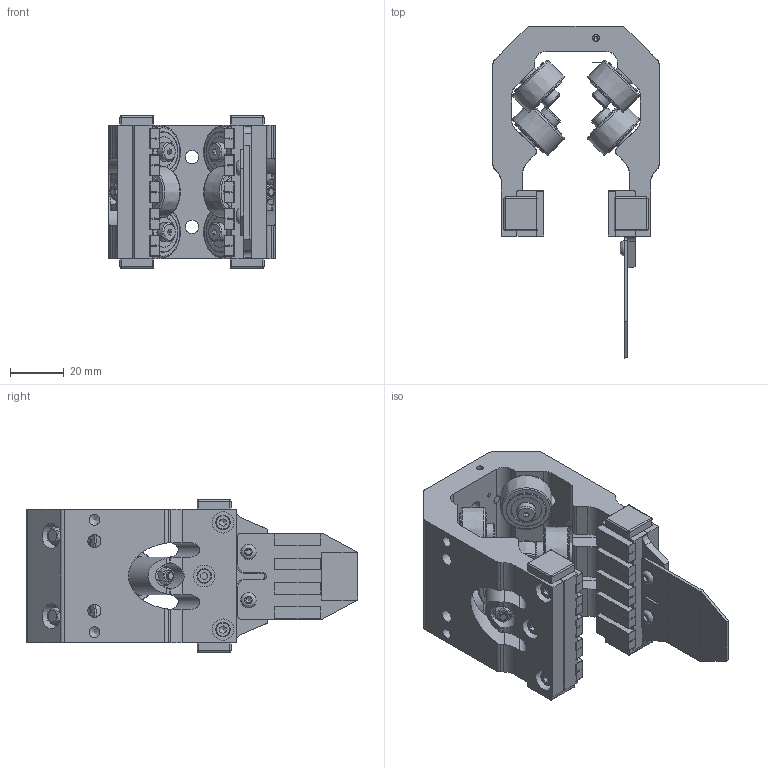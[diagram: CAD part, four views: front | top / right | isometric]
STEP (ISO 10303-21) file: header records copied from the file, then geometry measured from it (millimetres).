
FILE_DESCRIPTION(/* description */ (''),/* implementation_level */ '2;1');
FILE_NAME(/* name */ 'C:\_Vault-Workspace\CAD-Daten\XTS\CAD Daten Homepage\187679 AT9011-0050-1550.stp',/* time_stamp */ '2019-02-06T15:56:59+01:00',/* author */ ('UweB'),/* organization */ (''),/* preprocessor_version */ 'ST-DEVELOPER v17.2',/* originating_system */ 'Autodesk Inventor 2019',/* authorisation */ '');
FILE_SCHEMA (('AUTOMOTIVE_DESIGN { 1 0 10303 214 3 1 1 }'));
Length unit declared in the file: millimetre
Products named in the file (1): 081629 
Bounding box: 62 x 123.85 x 56.8 mm (x, y, z)
Volume: 114481.1 mm3; surface area: 47905.5 mm2
Topology: 3 solids, 18 shells, 1399 faces, 3746 edges, 2388 vertices
Faces by surface type: plane 770, cylinder 361, sphere 96, torus 80, cone 50, bspline 42
Full cylindrical faces by diameter (mm): 2.459 x7, 3 x10, 3.2 x2, 3.3 x1, 4 x18, 4.917 x6, 5.5 x6, 5.7 x2, 7 x16, 8 x20, 9.5 x6, 11.2 x12, 12.5 x1, 15 x15
Entity records: 45228 total; most frequent: CARTESIAN_POINT 8715, DIRECTION 7376, ORIENTED_EDGE 7290, EDGE_CURVE 3645, AXIS2_PLACEMENT_3D 2631, VERTEX_POINT 2388, LINE 2114, VECTOR 2114
